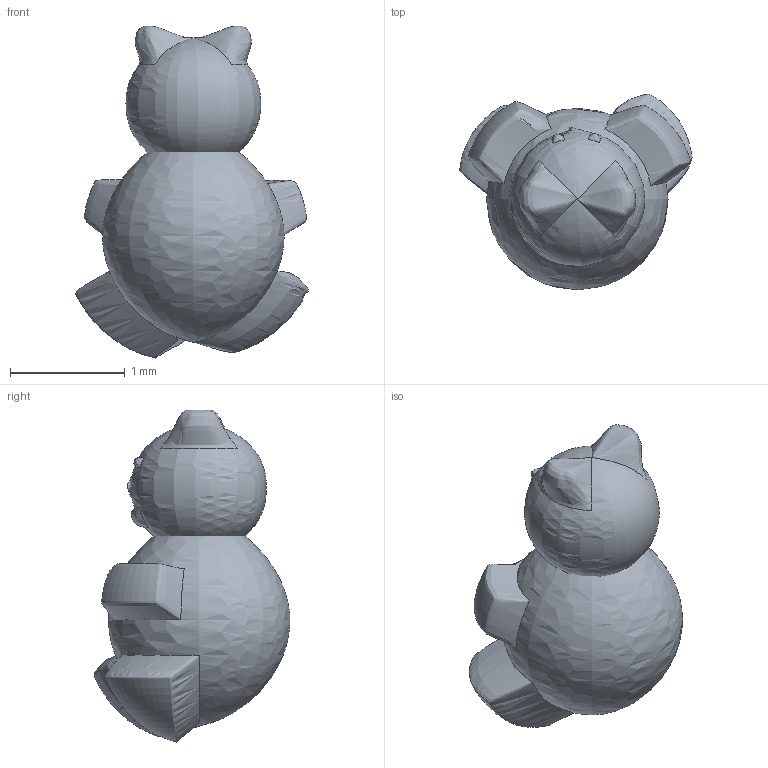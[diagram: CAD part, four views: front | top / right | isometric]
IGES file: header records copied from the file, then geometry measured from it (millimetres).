
Global section: file name: /home/giovy/xcmodel/MIO/orsettoNewBocca.igs; native system: XCMODEL ver.3.0 Universita' di Bologna; preprocessor: formato IGES Nov. 2001; date: 031114.125804; units: millimetre
Bounding box: 2.02 x 1.71 x 2.89 mm (x, y, z)
Surface area: 18 mm2 (no closed solid volume)
Topology: 0 solids, 0 shells, 12 faces, 46 edges, 42 vertices
Faces by surface type: bspline 12
